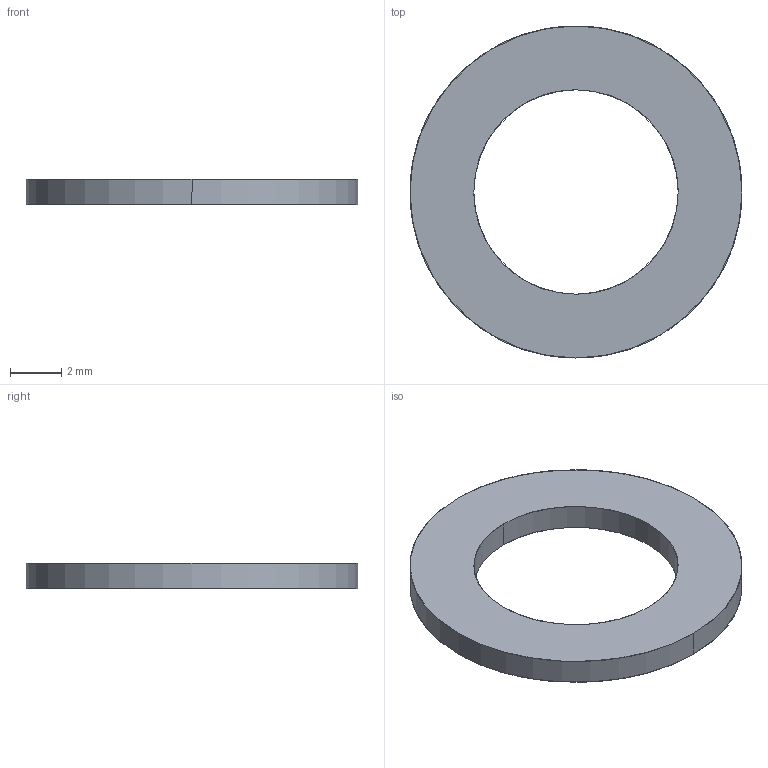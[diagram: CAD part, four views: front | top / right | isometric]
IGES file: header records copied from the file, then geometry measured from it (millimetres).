
Global section: file name: E:\UnigraphicsGraphicData\MISUMI_PRESS-PARTS\IGES\3d_sswa13-1.0_00811_r00.igs; native system: NX V5.0; preprocessor: UGS NX IGES V5.0; author: MISUMI; date: 20110105.163159; units: millimetre
Bounding box: 13 x 13 x 1 mm (x, y, z)
Surface area: 231.5 mm2 (no closed solid volume)
Topology: 0 solids, 0 shells, 6 faces, 48 edges, 48 vertices
Faces by surface type: bspline 6
